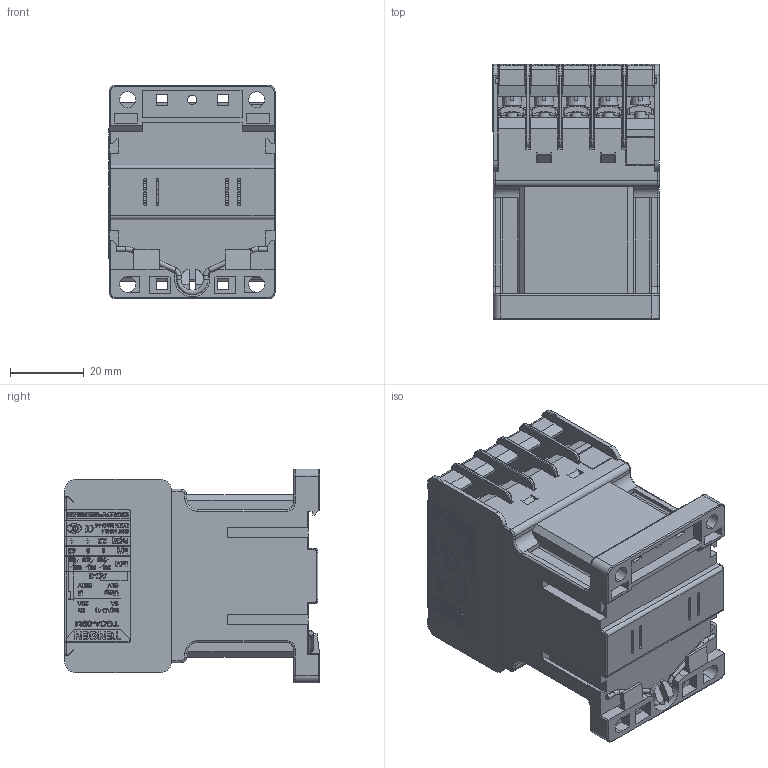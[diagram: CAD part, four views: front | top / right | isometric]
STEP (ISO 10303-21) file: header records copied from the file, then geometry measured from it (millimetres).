
FILE_DESCRIPTION((''),'2;1');
FILE_NAME('2TZD_400_6026_SW0002','2022-03-30T12:58:59',('ligang'),(''),'CREO PARAMETRIC BY PTC INC, 2020354','CREO PARAMETRIC BY PTC INC, 2020354','');
FILE_SCHEMA(('CONFIG_CONTROL_DESIGN'));
Products named in the file (1): 2TZD_400_6026_SW0002
Bounding box: 45.11 x 69.1 x 58 mm (x, y, z)
Volume: 49313.7 mm3; surface area: 82952.7 mm2
Topology: 12 solids, 12 shells, 6935 faces, 19144 edges, 12380 vertices
Faces by surface type: plane 4123, extrusion 1372, cylinder 1112, torus 218, cone 68, sphere 34, bspline 8
Entity records: 225795 total; most frequent: CARTESIAN_POINT 52992, ORIENTED_EDGE 38288, DIRECTION 30921, EDGE_CURVE 19144, VECTOR 14799, LINE 13427, VERTEX_POINT 12380, AXIS2_PLACEMENT_3D 8061
